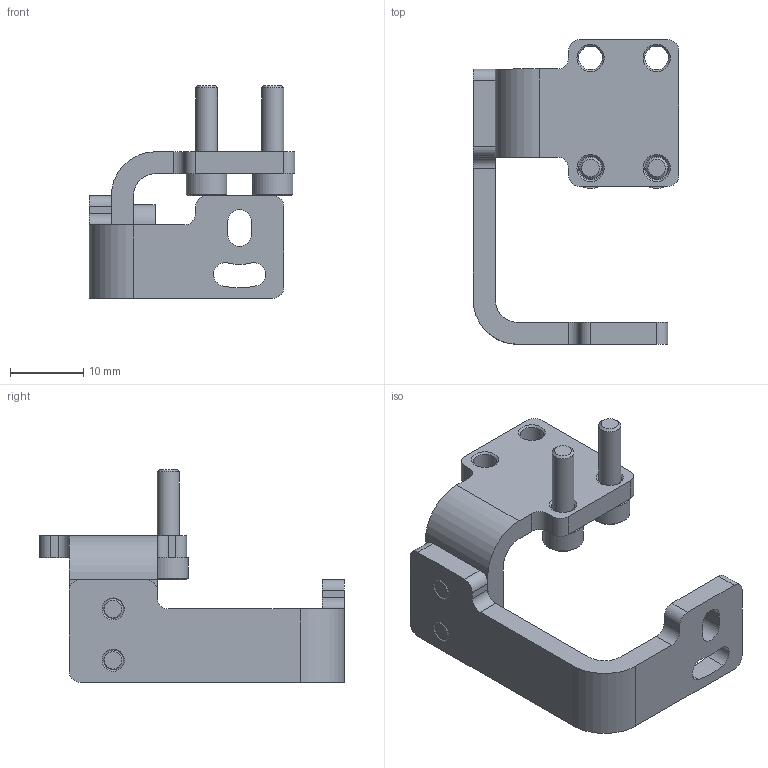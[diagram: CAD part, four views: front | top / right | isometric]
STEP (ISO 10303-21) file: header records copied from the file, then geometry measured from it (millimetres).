
FILE_DESCRIPTION( ( 'STEP AP203' ), '1' );
FILE_NAME( '//expscmdclustefs.cadenas.external/client_exchange/iodir/jobs/output/wkb80973201_no0/STEP/E21238_2_03.stp', ' ', ( ' ' ), ( ' ' ), 'PSStep 15.0.47', 'PARTsolutions', ' ' );
FILE_SCHEMA( ( 'CONFIG_CONTROL_DESIGN' ) );
Length unit declared in the file: millimetre
Products named in the file (5): E21238; _E21238_p1; _E21238_p3; _E21238_p2; _E21238_p4
Assembly tree (6 placements, depth 2):
  E21238
    _E21238_p1
    _E21238_p3  x2
    _E21238_p2
    _E21238_p4  x2
Bounding box: 27.97 x 41.47 x 28.97 mm (x, y, z)
Volume: 3994.2 mm3; surface area: 4285.7 mm2
Topology: 6 solids, 6 shells, 133 faces, 317 edges, 204 vertices
Faces by surface type: plane 66, cylinder 45, cone 22
Full cylindrical faces by diameter (mm): 2.459 x2, 3 x4, 3.2 x5, 5.5 x4
Entity records: 3208 total; most frequent: DIRECTION 556, CARTESIAN_POINT 512, ORIENTED_EDGE 464, EDGE_CURVE 232, AXIS2_PLACEMENT_3D 212, VERTEX_POINT 168, EDGE_LOOP 158, LINE 132
